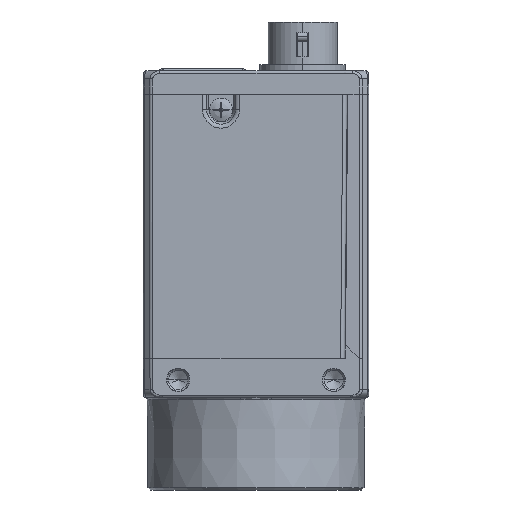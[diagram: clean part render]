
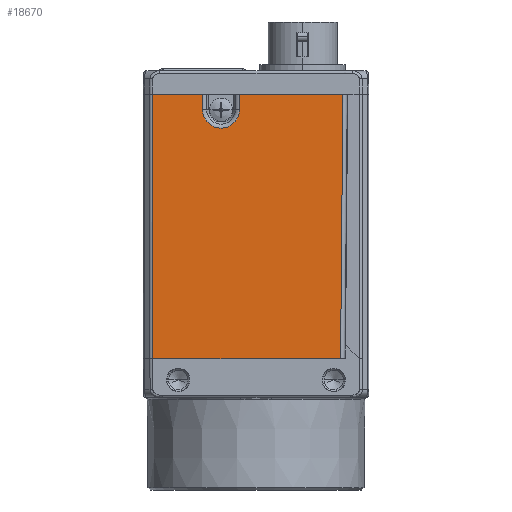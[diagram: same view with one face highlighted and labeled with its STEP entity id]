
A CAD part, left-side view. The second image highlights one B-rep face of the part: STEP entity #18670.
In plain terms, the highlighted planar face has unit normal (-1, 0, 0).
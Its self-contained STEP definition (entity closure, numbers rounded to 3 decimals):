
#2384=DIRECTION('',(0.,1.,0.));
#2385=VECTOR('',#2384,24.173);
#2386=CARTESIAN_POINT('',(-14.5,-10.88,
-0.5));
#2387=LINE('',#2386,#2385);
#2388=CARTESIAN_POINT('',(-14.5,4.5,31.5));
#2389=DIRECTION('',(-1.,0.,0.));
#2390=DIRECTION('',(0.,1.,0.));
#2391=AXIS2_PLACEMENT_3D('',#2388,#2389,#2390);
#2393=DIRECTION('',(0.,0.009,-1.));
#2394=VECTOR('',#2393,34.001);
#2395=CARTESIAN_POINT('',(-14.5,-11.177,
33.5));
#2396=LINE('',#2395,#2394);
#2397=DIRECTION('',(0.,0.,-1.));
#2398=VECTOR('',#2397,34.);
#2399=CARTESIAN_POINT('',(-14.5,13.293,33.5));
#2400=LINE('',#2399,#2398);
#4028=DIRECTION('',(0.,1.,0.));
#4029=VECTOR('',#4028,6.435);
#4030=CARTESIAN_POINT('',(-14.5,6.858,33.5));
#4031=LINE('',#4030,#4029);
#4091=DIRECTION('',(0.,1.,0.));
#4092=VECTOR('',#4091,13.318);
#4093=CARTESIAN_POINT('',(-14.5,-11.177,
33.5));
#4094=LINE('',#4093,#4092);
#7316=DIRECTION('',(0.,0.,-1.));
#7317=VECTOR('',#7316,2.);
#7318=CARTESIAN_POINT('',(-14.5,2.142,33.5));
#7319=LINE('',#7318,#7317);
#7334=DIRECTION('',(0.,0.,1.));
#7335=VECTOR('',#7334,2.);
#7336=CARTESIAN_POINT('',(-14.5,6.858,31.5));
#7337=LINE('',#7336,#7335);
#12853=CARTESIAN_POINT('',(-14.5,-11.177,
33.5));
#12855=VERTEX_POINT('',#12853);
#12863=CARTESIAN_POINT('',(-14.5,2.142,33.5));
#12865=VERTEX_POINT('',#12863);
#12873=CARTESIAN_POINT('',(-14.5,6.858,33.5));
#12874=VERTEX_POINT('',#12873);
#13540=CARTESIAN_POINT('',(-14.5,-10.88,
-0.5));
#13542=VERTEX_POINT('',#13540);
#13552=CARTESIAN_POINT('',(-14.5,13.293,
-0.5));
#13553=VERTEX_POINT('',#13552);
#13664=CARTESIAN_POINT('',(-14.5,13.293,
33.5));
#13665=VERTEX_POINT('',#13664);
#13666=CARTESIAN_POINT('',(-14.5,6.858,31.5));
#13667=CARTESIAN_POINT('',(-14.5,2.142,31.5));
#13668=VERTEX_POINT('',#13666);
#13669=VERTEX_POINT('',#13667);
#18649=CARTESIAN_POINT('',(-14.5,1.058,16.5));
#18650=DIRECTION('',(1.,0.,0.));
#18651=DIRECTION('',(0.,-1.,0.));
#18652=AXIS2_PLACEMENT_3D('',#18649,#18650,#18651);
#18653=PLANE('',#18652);
#18654=ORIENTED_EDGE('',*,*,#18251,.T.);
#18656=ORIENTED_EDGE('',*,*,#18655,.F.);
#18658=ORIENTED_EDGE('',*,*,#18657,.F.);
#18660=ORIENTED_EDGE('',*,*,#18659,.F.);
#18662=ORIENTED_EDGE('',*,*,#18661,.T.);
#18664=ORIENTED_EDGE('',*,*,#18663,.F.);
#18666=ORIENTED_EDGE('',*,*,#18665,.F.);
#18667=ORIENTED_EDGE('',*,*,#18641,.T.);
#18668=EDGE_LOOP('',(#18654,#18656,#18658,#18660,#18662,#18664,#18666,#18667));
#18669=FACE_OUTER_BOUND('',#18668,.F.);
#18670=ADVANCED_FACE('',(#18669),#18653,.F.);
#2392=CIRCLE('',#2391,2.358);
#18251=EDGE_CURVE('',#13542,#13553,#2387,.T.);
#18641=EDGE_CURVE('',#12855,#13542,#2396,.T.);
#18655=EDGE_CURVE('',#13665,#13553,#2400,.T.);
#18657=EDGE_CURVE('',#12874,#13665,#4031,.T.);
#18659=EDGE_CURVE('',#13668,#12874,#7337,.T.);
#18661=EDGE_CURVE('',#13668,#13669,#2392,.T.);
#18663=EDGE_CURVE('',#12865,#13669,#7319,.T.);
#18665=EDGE_CURVE('',#12855,#12865,#4094,.T.);
